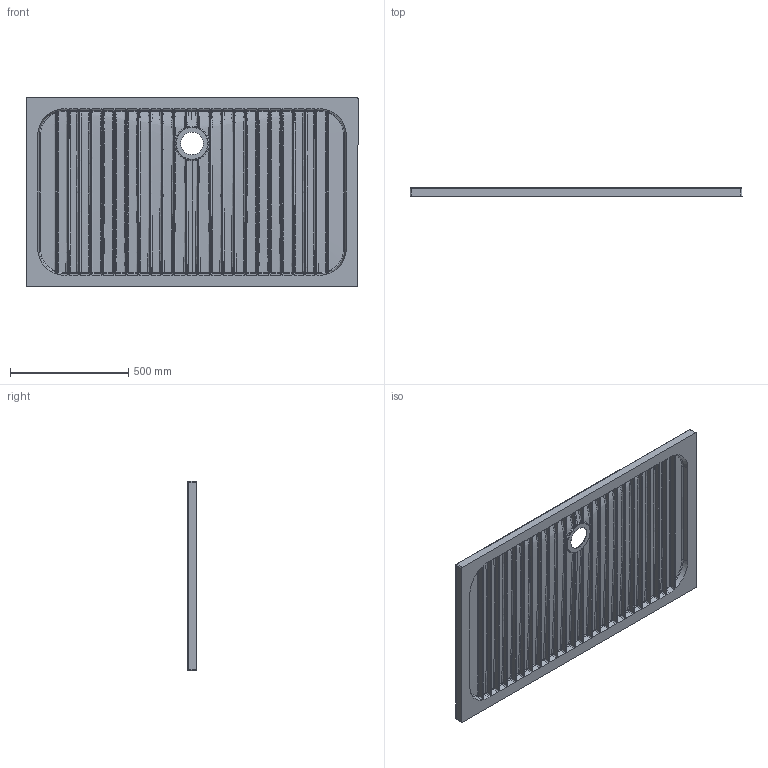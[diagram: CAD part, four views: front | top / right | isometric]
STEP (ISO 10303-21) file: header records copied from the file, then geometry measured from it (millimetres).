
FILE_DESCRIPTION (( 'STEP AP203' ), '1' );
FILE_NAME ('RAPID PD14008040.STEP', '2022-01-19T08:07:57', ( '' ), ( '' ), 'SwSTEP 2.0', 'SolidWorks 2021', '' );
FILE_SCHEMA (( 'CONFIG_CONTROL_DESIGN' ));
Products named in the file (1): RAPID PD14008040
Bounding box: 1401.33 x 38 x 801.33 mm (x, y, z)
Volume: 21321750.4 mm3; surface area: 2944054.1 mm2
Topology: 1 solids, 1 shells, 501 faces, 1118 edges, 641 vertices
Faces by surface type: bspline 176, sphere 108, plane 106, cylinder 96, cone 13, torus 2
Entity records: 56262 total; most frequent: CARTESIAN_POINT 46609, ORIENTED_EDGE 2222, DIRECTION 1670, EDGE_CURVE 1111, AXIS2_PLACEMENT_3D 683, VERTEX_POINT 641, EDGE_LOOP 532, FACE_OUTER_BOUND 503
